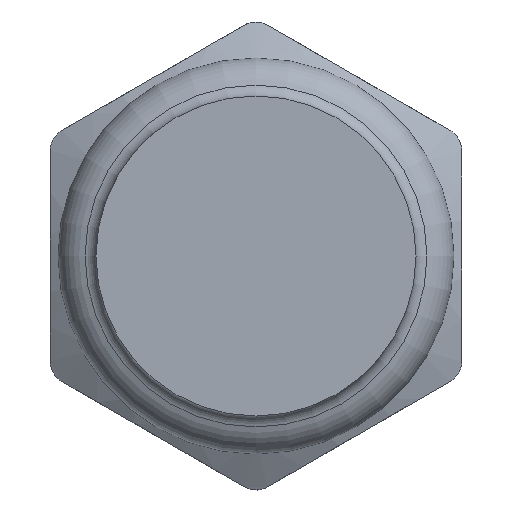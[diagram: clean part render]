
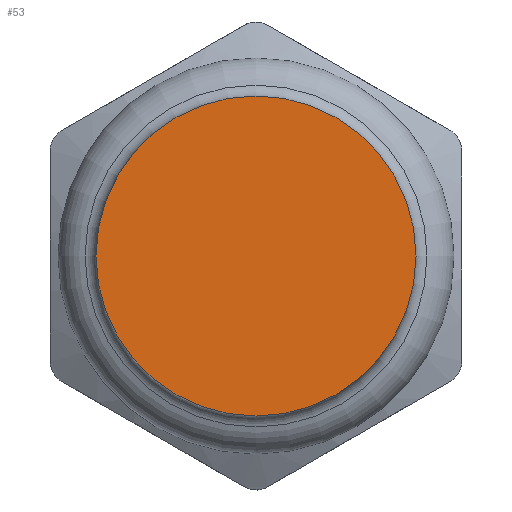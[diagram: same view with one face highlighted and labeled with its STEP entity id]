
A CAD part, front view. The second image highlights one B-rep face of the part: STEP entity #53.
In plain terms, the highlighted planar face has unit normal (0, -1, 0).
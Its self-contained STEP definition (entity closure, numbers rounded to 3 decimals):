
#53=ADVANCED_FACE('',(#78),#80,.T.);
#78=FACE_BOUND('',#79,.T.);
#79=EDGE_LOOP('',(#275));
#80=PLANE('',#81);
#81=AXIS2_PLACEMENT_3D('',#82,#83,#84);
#82=CARTESIAN_POINT('',(0.,0.,0.));
#83=DIRECTION('',(0.,-1.,0.));
#84=DIRECTION('',(0.,0.,1.));
#275=ORIENTED_EDGE('',*,*,#373,.F.);
#373=EDGE_CURVE('',#422,#422,#423,.T.);
#422=VERTEX_POINT('',#508);
#423=CIRCLE('',#509,10.5);
#508=CARTESIAN_POINT('',(0.,0.,10.5));
#509=AXIS2_PLACEMENT_3D('',#510,#511,#512);
#510=CARTESIAN_POINT('',(0.,0.,0.));
#511=DIRECTION('',(0.,1.,0.));
#512=DIRECTION('',(0.,0.,1.));
